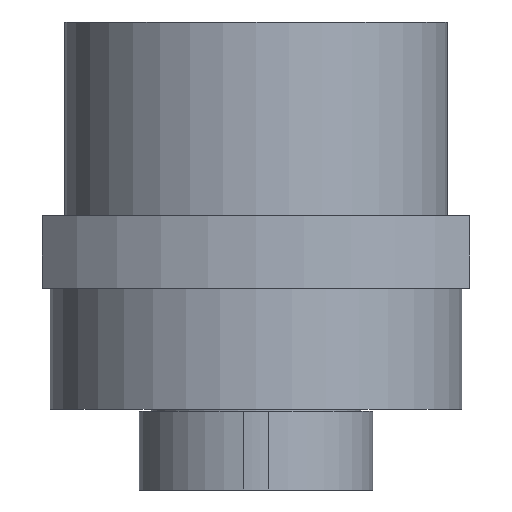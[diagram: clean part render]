
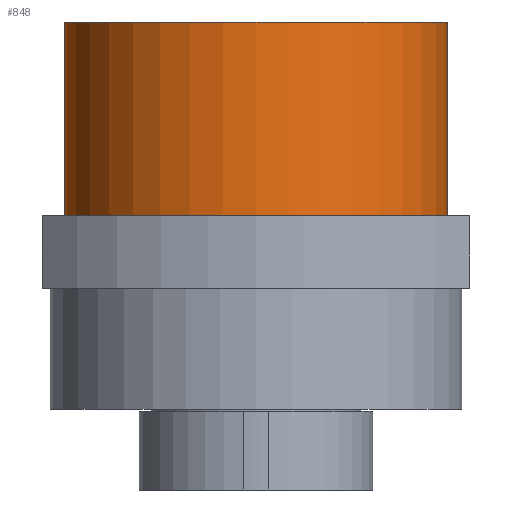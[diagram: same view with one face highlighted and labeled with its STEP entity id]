
A CAD part, front view. The second image highlights one B-rep face of the part: STEP entity #848.
In plain terms, the highlighted cylindrical face has radius 47.5 mm (diameter 95 mm), a full revolution.
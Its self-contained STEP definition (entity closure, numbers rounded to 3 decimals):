
#41=CYLINDRICAL_SURFACE($,#966,47.5);
#150=FACE_BOUND($,#312,.T.);
#219=FACE_OUTER_BOUND($,#311,.T.);
#311=EDGE_LOOP($,(#725));
#312=EDGE_LOOP($,(#726));
#398=CIRCLE($,#967,47.5);
#399=CIRCLE($,#968,47.5);
#474=VERTEX_POINT($,#1461);
#475=VERTEX_POINT($,#1463);
#566=EDGE_CURVE($,#474,#474,#398,.T.);
#567=EDGE_CURVE($,#475,#475,#399,.T.);
#725=ORIENTED_EDGE($,*,*,#566,.F.);
#726=ORIENTED_EDGE($,*,*,#567,.F.);
#848=ADVANCED_FACE($,(#219,#150),#41,.T.);
#966=AXIS2_PLACEMENT_3D($,#1460,#1220,#1221);
#967=AXIS2_PLACEMENT_3D($,#1462,#1222,#1223);
#968=AXIS2_PLACEMENT_3D($,#1464,#1224,#1225);
#1220=DIRECTION('center_axis',(0.,0.,1.));
#1221=DIRECTION('ref_axis',(-1.,0.,0.));
#1222=DIRECTION('center_axis',(0.,0.,1.));
#1223=DIRECTION('ref_axis',(-1.,0.,0.));
#1224=DIRECTION('center_axis',(0.,0.,-1.));
#1225=DIRECTION('ref_axis',(-1.,0.,0.));
#1460=CARTESIAN_POINT('Origin',(0.,0.,34.));
#1461=CARTESIAN_POINT('',(47.5,0.,82.));
#1462=CARTESIAN_POINT('Origin',(0.,0.,82.));
#1463=CARTESIAN_POINT('',(47.5,0.,34.));
#1464=CARTESIAN_POINT('Origin',(0.,0.,34.));
